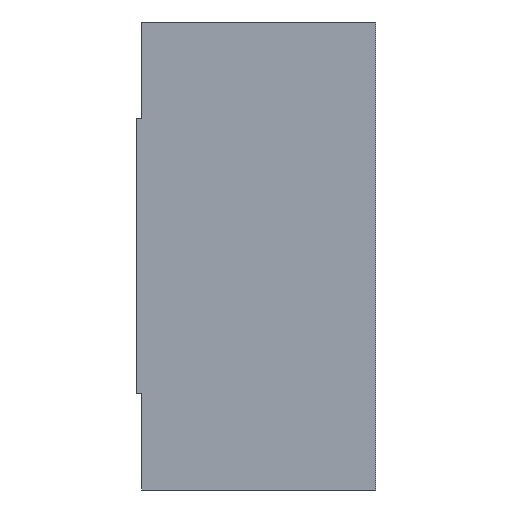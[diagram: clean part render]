
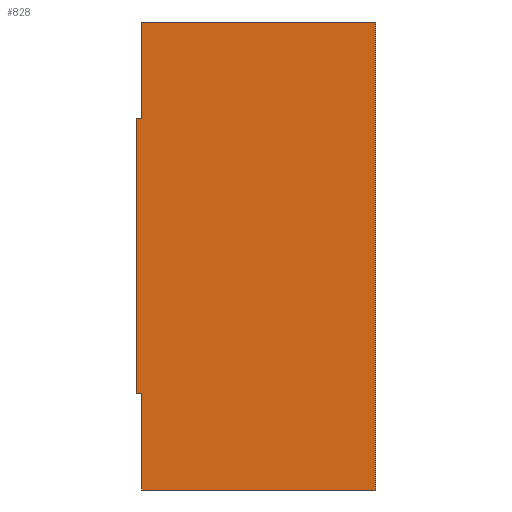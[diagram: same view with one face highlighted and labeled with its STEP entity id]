
A CAD part, left-side view. The second image highlights one B-rep face of the part: STEP entity #828.
In plain terms, the highlighted planar face has unit normal (-1, 0, 0).
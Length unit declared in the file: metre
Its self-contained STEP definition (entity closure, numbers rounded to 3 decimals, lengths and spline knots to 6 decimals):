
#156=ORIENTED_EDGE('',*,*,#284,.T.);
#157=ORIENTED_EDGE('',*,*,#338,.F.);
#158=ORIENTED_EDGE('',*,*,#332,.T.);
#159=ORIENTED_EDGE('',*,*,#328,.T.);
#160=ORIENTED_EDGE('',*,*,#337,.F.);
#161=ORIENTED_EDGE('',*,*,#339,.T.);
#162=ORIENTED_EDGE('',*,*,#287,.F.);
#163=ORIENTED_EDGE('',*,*,#340,.F.);
#284=EDGE_CURVE('',#387,#389,#472,.T.);
#287=EDGE_CURVE('',#392,#393,#475,.T.);
#328=EDGE_CURVE('',#423,#424,#507,.T.);
#332=EDGE_CURVE('',#427,#423,#511,.T.);
#337=EDGE_CURVE('',#430,#424,#516,.T.);
#338=EDGE_CURVE('',#427,#389,#517,.T.);
#339=EDGE_CURVE('',#430,#393,#518,.T.);
#340=EDGE_CURVE('',#387,#392,#519,.T.);
#387=VERTEX_POINT('',#1211);
#389=VERTEX_POINT('',#1215);
#392=VERTEX_POINT('',#1222);
#393=VERTEX_POINT('',#1224);
#423=VERTEX_POINT('',#1311);
#424=VERTEX_POINT('',#1312);
#427=VERTEX_POINT('',#1320);
#430=VERTEX_POINT('',#1328);
#472=LINE('',#1216,#546);
#475=LINE('',#1223,#549);
#507=LINE('',#1310,#581);
#511=LINE('',#1319,#585);
#516=LINE('',#1329,#590);
#517=LINE('',#1331,#591);
#518=LINE('',#1332,#592);
#519=LINE('',#1333,#593);
#546=VECTOR('',#968,1.);
#549=VECTOR('',#973,1.);
#581=VECTOR('',#1055,1.);
#585=VECTOR('',#1061,1.);
#590=VECTOR('',#1068,1.);
#591=VECTOR('',#1071,1.);
#592=VECTOR('',#1072,1.);
#593=VECTOR('',#1073,1.);
#642=EDGE_LOOP('',(#156,#157,#158,#159,#160,#161,#162,#163));
#718=FACE_BOUND('',#642,.T.);
#795=PLANE('',#905);
#828=ADVANCED_FACE('',(#718),#795,.F.);
#905=AXIS2_PLACEMENT_3D('',#1330,#1069,#1070);
#968=DIRECTION('',(0.,-1.,0.));
#973=DIRECTION('',(0.,-1.,0.));
#1055=DIRECTION('',(0.,0.,1.));
#1061=DIRECTION('',(0.,-1.,0.));
#1068=DIRECTION('',(0.,-1.,0.));
#1069=DIRECTION('',(1.,0.,0.));
#1070=DIRECTION('',(0.,0.,-1.));
#1071=DIRECTION('',(0.,0.,1.));
#1072=DIRECTION('',(0.,0.,-1.));
#1073=DIRECTION('',(0.,0.,1.));
#1211=CARTESIAN_POINT('',(0.,0.0235,-0.0365));
#1215=CARTESIAN_POINT('',(0.,0.023,-0.0365));
#1216=CARTESIAN_POINT('',(0.,0.0235,-0.0365));
#1222=CARTESIAN_POINT('',(0.,0.0235,-0.0095));
#1223=CARTESIAN_POINT('',(0.,0.0235,-0.0095));
#1224=CARTESIAN_POINT('',(0.,0.023,-0.0095));
#1310=CARTESIAN_POINT('',(0.,0.,0.));
#1311=CARTESIAN_POINT('',(0.,0.,-0.046));
#1312=CARTESIAN_POINT('',(0.,0.,0.));
#1319=CARTESIAN_POINT('',(0.,0.0235,-0.046));
#1320=CARTESIAN_POINT('',(0.,0.023,-0.046));
#1328=CARTESIAN_POINT('',(0.,0.023,0.));
#1329=CARTESIAN_POINT('',(0.,0.0235,0.));
#1330=CARTESIAN_POINT('',(0.,0.0235,0.));
#1331=CARTESIAN_POINT('',(0.,0.023,-0.046));
#1332=CARTESIAN_POINT('',(0.,0.023,0.));
#1333=CARTESIAN_POINT('',(0.,0.0235,0.));
